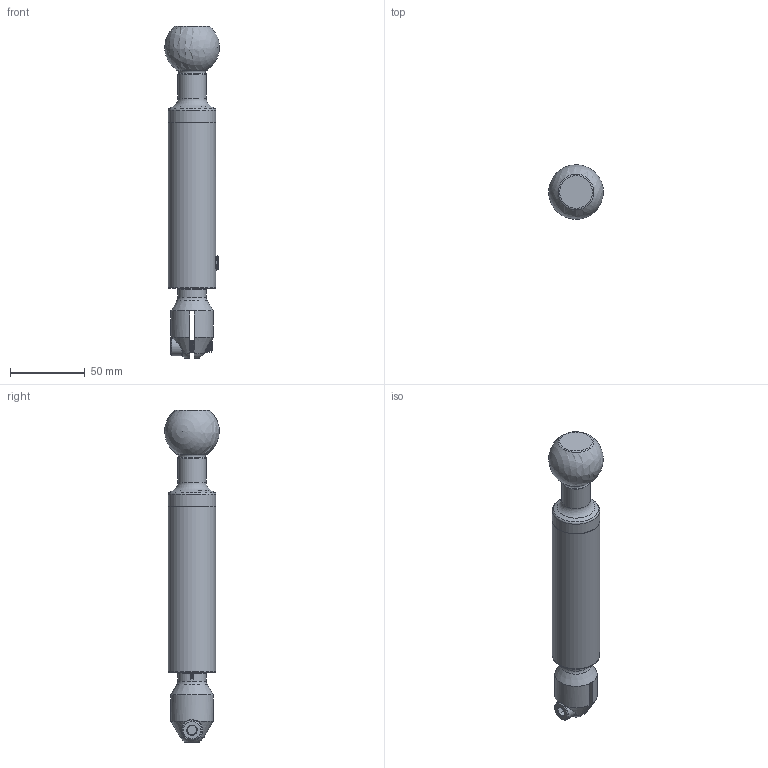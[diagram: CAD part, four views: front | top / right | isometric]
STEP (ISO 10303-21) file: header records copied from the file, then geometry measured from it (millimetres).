
FILE_DESCRIPTION(/* description */ (''),/* implementation_level */ '2;1');
FILE_NAME(/* name */ 'C:\Users\owner\Desktop\HDPL-POSTS_3D_stp\HDPL-TPOST2IN-BK.stp',/* time_stamp */ '2017-10-02T09:22:18-04:00',/* author */ ('owner'),/* organization */ (''),/* preprocessor_version */ 'ST-DEVELOPER v16.5',/* originating_system */ 'Autodesk Inventor 2017',/* authorisation */ '');
FILE_SCHEMA (('CONFIG_CONTROL_DESIGN'));
Length unit declared in the file: inch
Products named in the file (7): PL-HDTPOST2IN; 60069; 60067; 60070; #92775; 60074; 60077
Assembly tree (6 placements, depth 2):
  PL-HDTPOST2IN
    60069
    60067
    60070
    #92775
    60074
    60077
Bounding box: 36.51 x 36.57 x 222.31 mm (x, y, z)
Volume: 143875 mm3; surface area: 43455.5 mm2
Topology: 6 solids, 6 shells, 981 faces, 2634 edges, 1736 vertices
Faces by surface type: bspline 409, plane 406, cylinder 113, cone 29, torus 21, sphere 3
Full cylindrical faces by diameter (mm): 6.655 x1, 7 x1, 8.382 x1, 8.731 x1, 9.131 x1, 10.033 x1, 10.693 x1, 10.744 x1, 13 x1, 18.923 x1, 18.947 x1, 19.05 x1, 19.446 x1, 19.482 x1, 22.123 x1, 22.187 x1, 22.225 x2, 28.341 x1, 31.75 x2
Entity records: 44179 total; most frequent: CARTESIAN_POINT 22449, ORIENTED_EDGE 5024, DIRECTION 3313, EDGE_CURVE 2512, VERTEX_POINT 1688, LINE 1191, VECTOR 1191, EDGE_LOOP 1128
